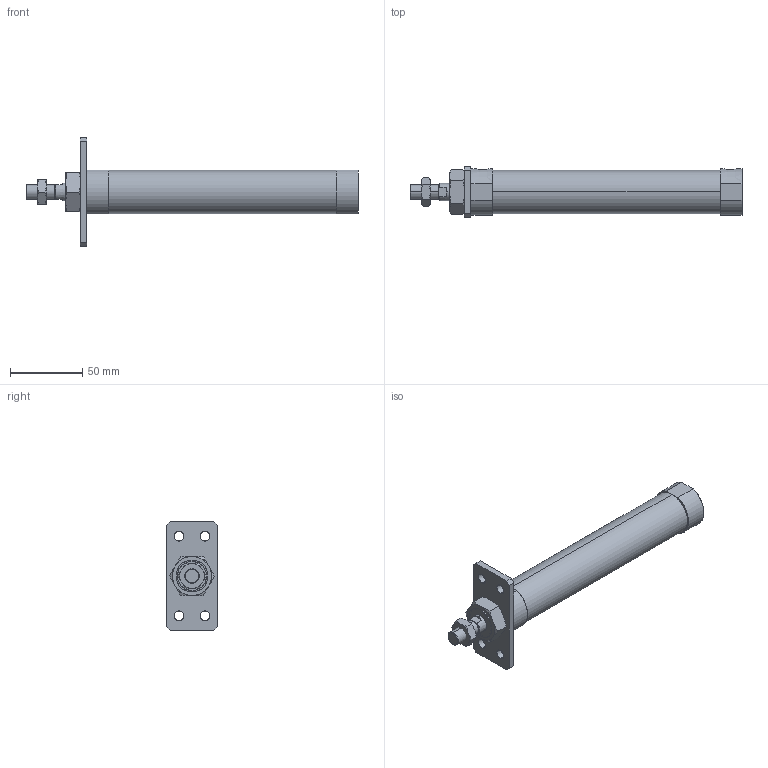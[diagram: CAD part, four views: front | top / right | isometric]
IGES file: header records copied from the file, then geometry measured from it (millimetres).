
Start section: SolidWorks IGES file using analytic representation for surfaces
Global section: file name: C:\Users\Toshiba\Desktop\JGND2-25-125-A.IGS; native system: SolidWorks 2014; preprocessor: SolidWorks 2014; author: Toshiba; date: 160804.104058; units: millimetre
Bounding box: 229 x 35 x 75 mm (x, y, z)
Surface area: 31479.3 mm2 (no closed solid volume)
Topology: 0 solids, 0 shells, 109 faces, 2000 edges, 1996 vertices
Faces by surface type: bspline 69, revolution 40
